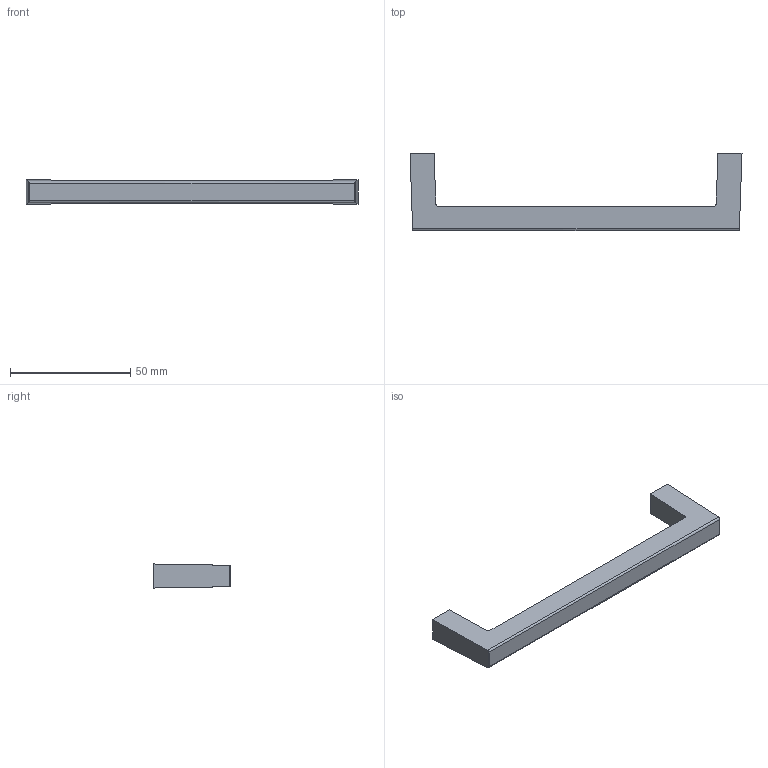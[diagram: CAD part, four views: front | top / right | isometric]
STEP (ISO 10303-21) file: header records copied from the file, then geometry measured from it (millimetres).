
FILE_DESCRIPTION( ( '' ), '1' );
FILE_NAME( 'D:/1.AUTOCAD EXPORT/Group 10/sheet_10_1/115066.stp', '2013-10-22T04:23:44', ( '' ), ( '' ), ' ', ' ', ' ' );
FILE_SCHEMA( ( 'automotive_design' ) );
Length unit declared in the file: millimetre
Products named in the file (1): 1
Bounding box: 138 x 32 x 10 mm (x, y, z)
Volume: 16332.6 mm3; surface area: 7219.4 mm2
Topology: 1 solids, 1 shells, 22 faces, 54 edges, 36 vertices
Faces by surface type: plane 12, cylinder 10
Entity records: 1332 total; most frequent: CARTESIAN_POINT 149, STYLED_ITEM 113, PRESENTATION_STYLE_ASSIGNMENT 113, COLOUR_RGB 113, DIRECTION 112, ORIENTED_EDGE 108, EDGE_CURVE 54, CURVE_STYLE 54
